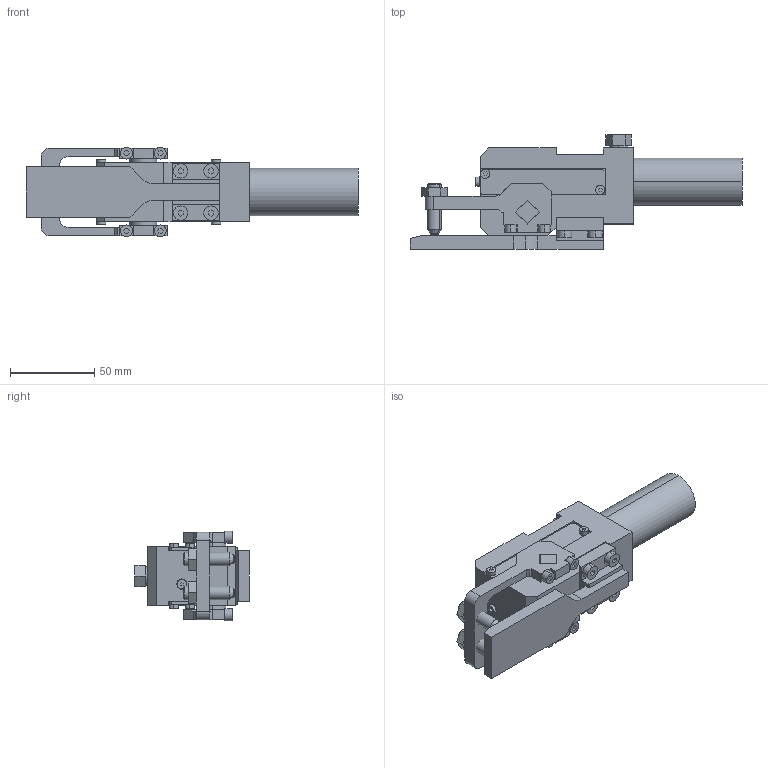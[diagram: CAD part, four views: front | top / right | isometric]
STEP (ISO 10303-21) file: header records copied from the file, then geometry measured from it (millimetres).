
FILE_DESCRIPTION (( 'STEP AP214' ), '1' );
FILE_NAME ('g20_g02_p_i_x_c.STEP', '2014-03-17T09:46:16', ( 'vep' ), ( 'TOSHIBA' ), 'SwSTEP 2.0', 'SolidWorks 2013', '' );
FILE_SCHEMA (( 'AUTOMOTIVE_DESIGN' ));
Length unit declared in the file: millimetre
Products named in the file (6): gruppo_montante_G20; g20_g02_p_i_x_c; vite_m8x30_zigrinata_3_080; supporto_fisso_G20; riparo_G20; leva_g02_G20
Assembly tree (7 placements, depth 2):
  g20_g02_p_i_x_c
    gruppo_montante_G20
    leva_g02_G20
    riparo_G20  x2
    supporto_fisso_G20
    vite_m8x30_zigrinata_3_080  x2
Bounding box: 196.5 x 67.9 x 53 mm (x, y, z)
Volume: 232283.6 mm3; surface area: 58579.9 mm2
Topology: 9 solids, 9 shells, 630 faces, 1454 edges, 868 vertices
Faces by surface type: plane 474, cylinder 116, cone 40
Entity records: 14978 total; most frequent: CARTESIAN_POINT 2455, DIRECTION 2394, ORIENTED_EDGE 2304, EDGE_CURVE 1152, VECTOR 882, LINE 882, AXIS2_PLACEMENT_3D 756, VERTEX_POINT 721
